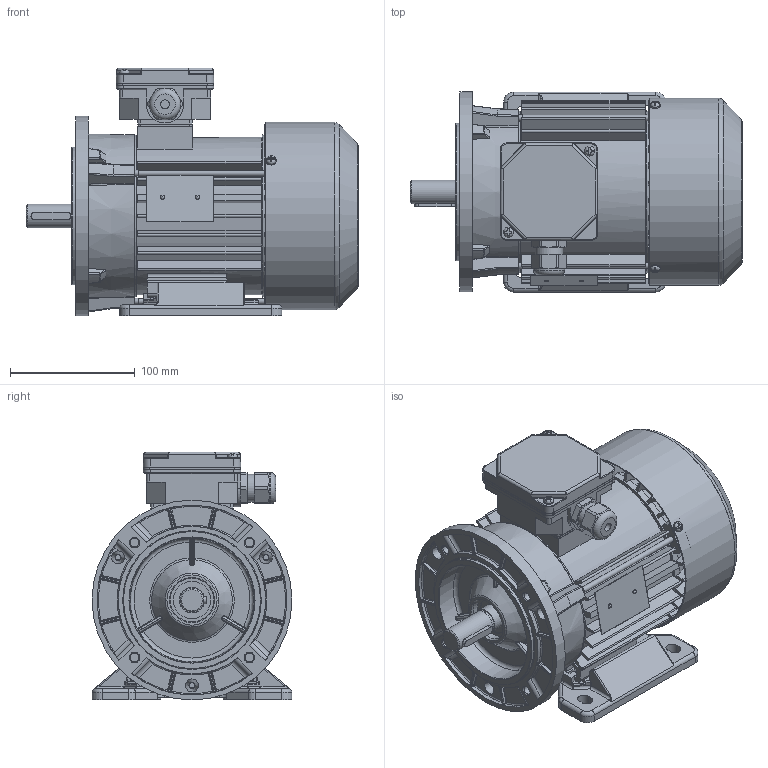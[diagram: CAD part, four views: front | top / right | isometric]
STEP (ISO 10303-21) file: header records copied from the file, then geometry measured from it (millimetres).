
FILE_DESCRIPTION(/* description */ ('Unknown'),/* implementation_level */ '2;1');
FILE_NAME(/* name */ '2SIEL80-4A1',/* time_stamp */ '2021-04-12T14:55:58+02:00',/* author */ ('Unknown'),/* organization */ ('Unknown'),/* preprocessor_version */ 'ST-DEVELOPER v16.7',/* originating_system */ 'Solid Edge',/* authorisation */ 'Unknown');
FILE_SCHEMA (('AUTOMOTIVE_DESIGN {1 0 10303 214 3 1 1}'));
Products named in the file (1): 2SIEL80-4A1
Bounding box: 265.79 x 160 x 198.5 mm (x, y, z)
Volume: 1045089.6 mm3; surface area: 523253.4 mm2
Topology: 3 solids, 3 shells, 2942 faces, 8105 edges, 5156 vertices
Faces by surface type: plane 1285, cylinder 908, bspline 406, torus 184, cone 133, sphere 26
Full cylindrical faces by diameter (mm): 2 x2, 2.4 x2, 3 x1, 3.7 x8, 4 x3, 4.2 x3, 4.5 x1, 4.6 x3, 4.8 x2, 5 x5, 5.5 x3, 6.5 x4, 6.8 x4, 7 x1, 8 x9, 18.598 x1, 18.998 x1, 19.298 x1, 19.498 x1, 20.298 x2, 20.398 x2, 20.4 x2, 22.3 x1, 25 x1, 25.497 x1, 25.647 x1, 25.997 x3, 26.047 x1, 28.799 x4, 30 x1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
Entity records: 117749 total; most frequent: CARTESIAN_POINT 27641, ORIENTED_EDGE 15400, DIRECTION 13890, EDGE_CURVE 7700, AXIS2_PLACEMENT_3D 5138, VERTEX_POINT 5029, LINE 3614, VECTOR 3614
